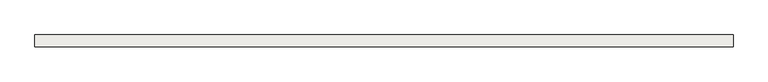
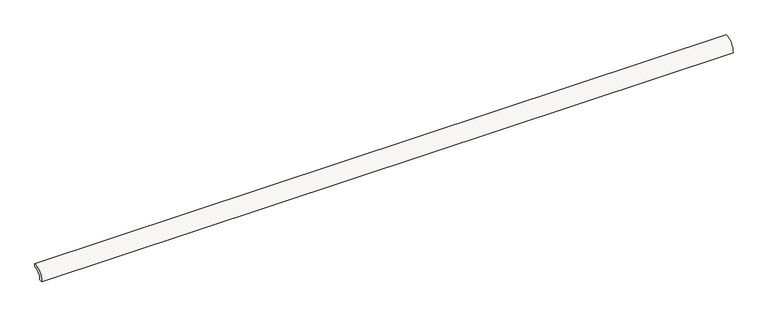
"""IFC4 building model written with IfcOpenShell, lengths in millimetres: slab geometry, ROSA GRES_183 : Pieza 183_Tresor_Java_Anti-Slip."""

from ifc_helpers import new_model, si_unit, point, frame, frame_2d, origin, origin_2d, place, context, project, spatial, polyline, circle_curve, trimmed, segment, composite_curve, outline, extrude, source, transform, mapped, element, save


def slab_7d5f53a7(model_context):
    return source(origin(), model_context, "Body", "SweptSolid", [
        extrude(outline(composite_curve([segment(polyline([(0.0, 40.0), (0.0, 30.0265886)]), True, "CONTINUOUS"), segment(trimmed(circle_curve(frame_2d((-0.0044453, 0.0044453)), 30.0221435), [point((0.0, 30.0265886))], [point((-30.0265886, 0.0))], True, "CARTESIAN"), True, "CONTINUOUS"), segment(polyline([(-30.0265886, 0.0), (-40.0, 0.0)]), True, "CONTINUOUS"), segment(trimmed(circle_curve(origin_2d(), 40.0), [point((-40.0, 0.0))], [point((0.0, 40.0))], False, "CARTESIAN"), True, "CONTINUOUS")], self_intersect=False)), frame((0.0, 0.0, 0.0), z_axis=(1.0, 0.0, 0.0), x_axis=(0.0, 1.0, 0.0)), (0.0, 0.0, 1.0), 2370.0),
    ])


if __name__ == "__main__":
    model = new_model("IFC4")
    model_context = context("Model", 3, world=origin())
    ifc_project = project(units=[si_unit("LENGTHUNIT", "METRE", prefix="MILLI")], contexts=[model_context])
    site = spatial("IfcSite", under=ifc_project)
    building = spatial("IfcBuilding", under=site)
    placement = place(None, origin())
    slab_shape = slab_7d5f53a7(model_context)
    element("IfcSlab", 1, ObjectType="ROSA GRES_183 : Pieza 183_Tresor_Java_Anti-Slip", at=placement, inside=building, context=model_context, shape_type="MappedRepresentation", body=[
        mapped(slab_shape, transform((0.0, 0.0, 0.0), x_axis=(1.0, 0.0, 0.0), y_axis=(0.0, 1.0, 0.0), z_axis=(0.0, 0.0, 1.0))),
    ])
    save(model, "model.ifc")
